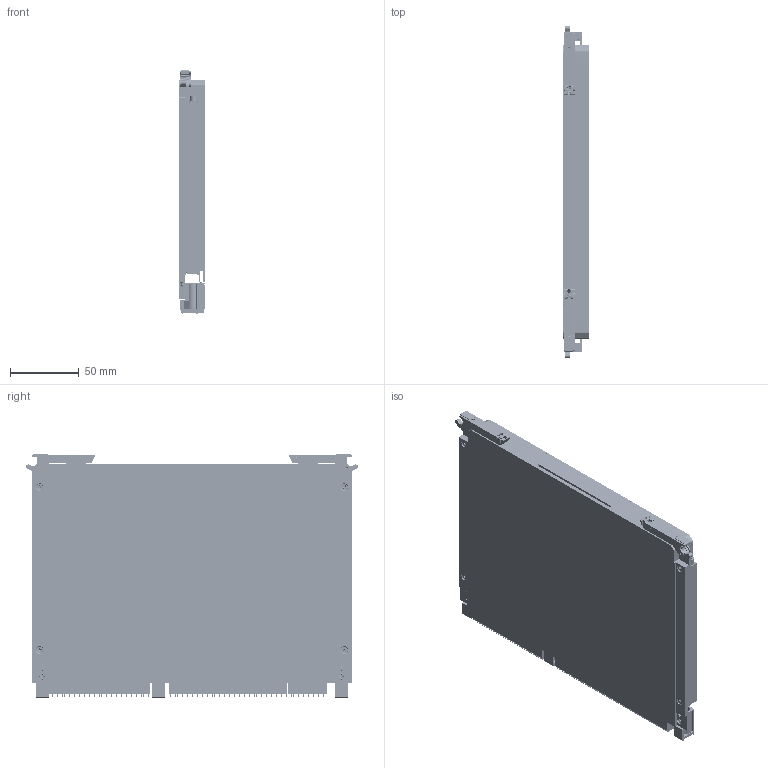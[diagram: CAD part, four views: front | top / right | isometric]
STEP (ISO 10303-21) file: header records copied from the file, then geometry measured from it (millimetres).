
FILE_DESCRIPTION (( 'STEP AP214' ), '1' );
FILE_NAME ('6U-VPX48.2-PS-260-311-TC.STEP', '2018-06-19T14:06:42', ( '' ), ( '' ), 'SwSTEP 2.0', 'SolidWorks 2014', '' );
FILE_SCHEMA (( 'AUTOMOTIVE_DESIGN' ));
Length unit declared in the file: inch
Products named in the file (20): SECONDARY SIDE COVER_311-TC_265; 6U-VPX48.2-PS-260-311-TC; Single Mezzanine board assembly; c-2102060-1-e-3d; 714362164; PMC-XMC BOARD_PMC XMC VITA 20 VITA 42; VPX BOARD ASSEMBLY_6UXMC VITA 42; 714390164; c-2102061-1-g-3d; 1410189-3; 1774226_1-1469492-9; 1410187-3; VPX BOARD_6U VITA 42 SINGLE XMC PMC_311-TC; CCA FRAME ASSEMBLY_311-TC_6UVPX48.2-800-260 FRAME ASSEMBLY PSR - ALTERNATE LEVER; 260-4.80; RH 311-TC_SDG; LH 311-TC_SDG; 322307-18_92010A016; FRAME_311-TC_6UVPX48.2-800-260 PSR - ALTERNATE LEVER; PMC-XMC COVER
Assembly tree (53 placements, depth 3):
  6U-VPX48.2-PS-260-311-TC
    CCA FRAME ASSEMBLY_311-TC_6UVPX48.2-800-260 FRAME ASSEMBLY PSR - ALTERNATE LEVER
      FRAME_311-TC_6UVPX48.2-800-260 PSR - ALTERNATE LEVER
      322307-18_92010A016  x6
      LH 311-TC_SDG
      RH 311-TC_SDG
      260-4.80  x2
    322307-18_92010A016  x13
    VPX BOARD ASSEMBLY_6UXMC VITA 42
      VPX BOARD_6U VITA 42 SINGLE XMC PMC_311-TC
      1410187-3  x6
      1774226_1-1469492-9  x3
      1410189-3
      c-2102061-1-g-3d  x2
      714390164  x4
    Single Mezzanine board assembly
      PMC-XMC BOARD_PMC XMC VITA 20 VITA 42
      714362164  x4
      c-2102060-1-e-3d  x2
    SECONDARY SIDE COVER_311-TC_265
    PMC-XMC COVER
Bounding box: 19.09 x 242.15 x 177.58 mm (x, y, z)
Volume: 535710.8 mm3; surface area: 361310.3 mm2
Topology: 320 solids, 322 shells, 25268 faces, 67829 edges, 44746 vertices
Faces by surface type: plane 21673, cylinder 2647, bspline 587, cone 355, torus 6
Full cylindrical faces by diameter (mm): 0.356 x6, 0.43 x26, 0.5 x228, 0.559 x2, 0.635 x2, 0.813 x2, 0.864 x2, 0.965 x2, 1.05 x33, 1.067 x4, 1.092 x4, 1.2 x16, 1.213 x4, 1.219 x2, 1.321 x2, 1.524 x2, 1.6 x12, 1.651 x2, 1.702 x4, 1.778 x6, 2.032 x2, 2.05 x2, 2.2 x15, 2.5 x190, 2.55 x16, 2.7 x18, 2.794 x2, 2.845 x2, 2.9 x10, 2.921 x2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
Entity records: 273887 total; most frequent: CARTESIAN_POINT 70531, ORIENTED_EDGE 40804, DIRECTION 37683, EDGE_CURVE 20402, VECTOR 17699, LINE 17699, VERTEX_POINT 13706, AXIS2_PLACEMENT_3D 9992
